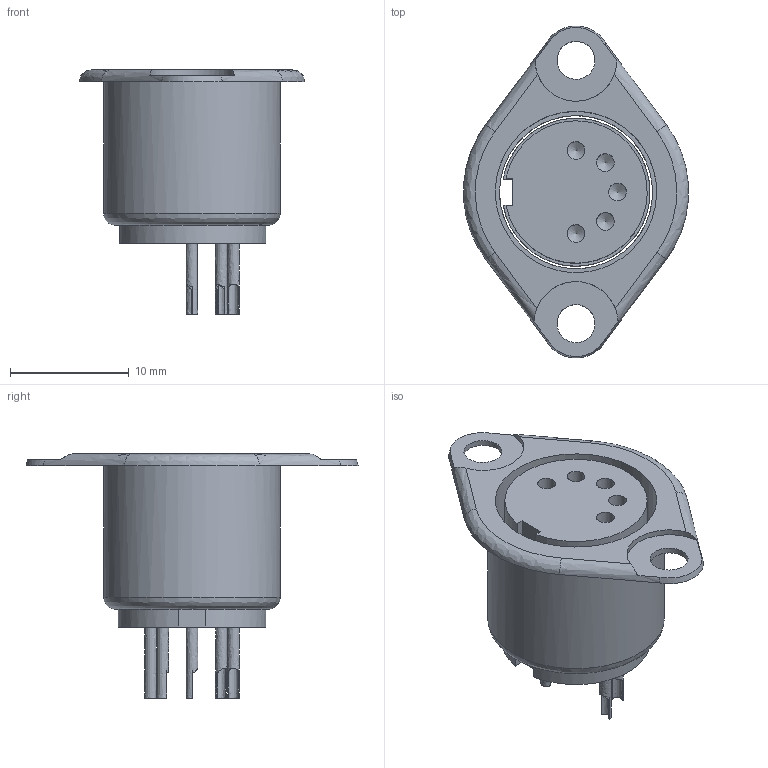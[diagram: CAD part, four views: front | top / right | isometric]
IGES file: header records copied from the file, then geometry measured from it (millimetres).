
Global section: file name: No Iges File Name specified; native system: Autodesk Inventor 2013; preprocessor: AutoDesk Inventor Iges Exporter R2013; author: leininger-65460; date: 20141105.164424; units: millimetre
Bounding box: 18.96 x 27.99 x 20.6 mm (x, y, z)
Volume: 2094.7 mm3; surface area: 2785.8 mm2
Topology: 7 solids, 7 shells, 74 faces, 197 edges, 133 vertices
Faces by surface type: bspline 74
